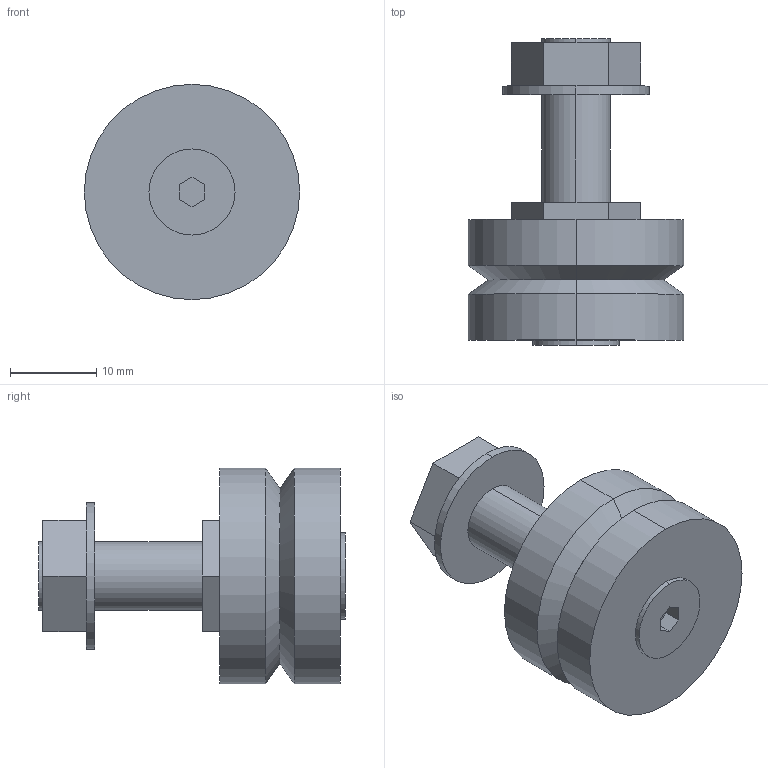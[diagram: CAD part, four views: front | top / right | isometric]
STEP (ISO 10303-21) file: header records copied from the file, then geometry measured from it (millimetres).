
FILE_DESCRIPTION(('STEP AP203'),'1');
FILE_NAME('rlj_25_c.stp','2020-03-05T15:49:37',('TraceParts'),('TraceParts S.A.'),'Spatial InterOp 3D',' ',' ');
FILE_SCHEMA(('CONFIG_CONTROL_DESIGN'));
Length unit declared in the file: millimetre
Products named in the file (1): 1
Bounding box: 25 x 35.6 x 25 mm (x, y, z)
Volume: 8520.5 mm3; surface area: 3320.2 mm2
Topology: 1 solids, 1 shells, 43 faces, 96 edges, 62 vertices
Faces by surface type: plane 27, cylinder 12, cone 4
Entity records: 1232 total; most frequent: DIRECTION 210, CARTESIAN_POINT 202, ORIENTED_EDGE 192, EDGE_CURVE 96, AXIS2_PLACEMENT_3D 70, LINE 70, VECTOR 70, VERTEX_POINT 62
